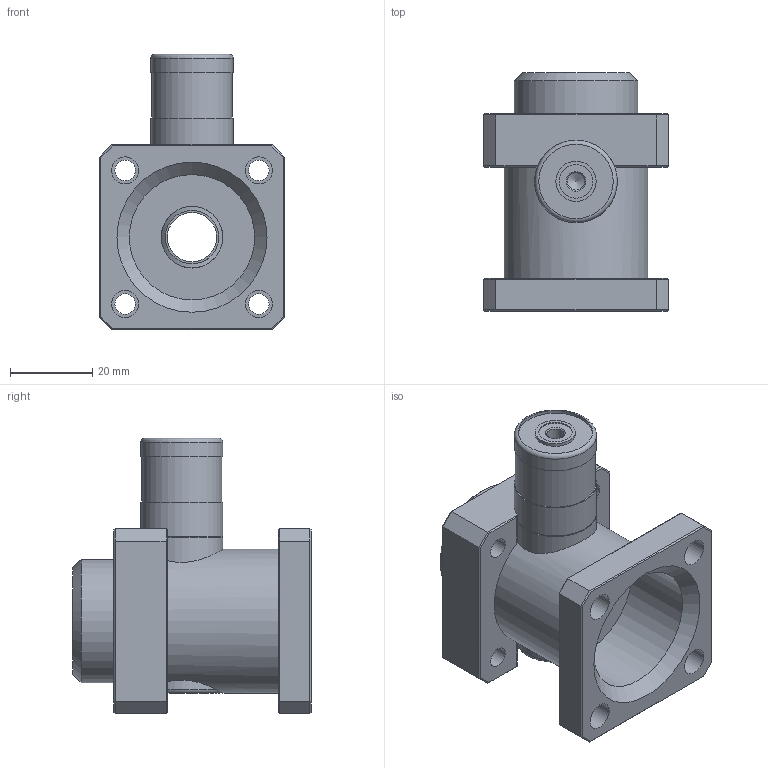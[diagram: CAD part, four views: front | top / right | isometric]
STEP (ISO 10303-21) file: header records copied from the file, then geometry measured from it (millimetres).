
FILE_DESCRIPTION(('STEP AP242'),'1');
FILE_NAME('A.6012 + MA.7032 Feststellpatrone mit Zylinderaufnahme.stp','2026-07-01T13:22:04',(' '),(' '),'Spatial InterOp 3D',' ',' ');
FILE_SCHEMA(('AP242_MANAGED_MODEL_BASED_3D_ENGINEERING_MIM_LF {1 0 10303 442 1 1 4}'));
Length unit declared in the file: millimetre
Products named in the file (3): A.6012 + MA.7032 Feststellpatrone mit Zylinderaufnahme; MA.7032 (M7032-SO); A.6012 Feststellpatrone
Assembly tree (2 placements, depth 2):
  A.6012 + MA.7032 Feststellpatrone mit Zylinderaufnahme
    MA.7032 (M7032-SO)
    A.6012 Feststellpatrone
Bounding box: 45 x 58 x 67 mm (x, y, z)
Volume: 60088.8 mm3; surface area: 23023.2 mm2
Topology: 2 solids, 2 shells, 106 faces, 242 edges, 148 vertices
Faces by surface type: plane 70, cylinder 27, cone 7, torus 2
Full cylindrical faces by diameter (mm): 4.2 x2, 5 x4, 6.6 x4, 8.2 x1, 9.8 x1, 12 x2, 13 x2, 15 x2, 18.1 x1, 19.5 x1, 20 x3, 20.117 x1, 30 x1, 30.5 x1, 35 x1
Entity records: 4250 total; most frequent: CARTESIAN_POINT 880, DIRECTION 470, ORIENTED_EDGE 396, EDGE_CURVE 198, EDGE_LOOP 174, AXIS2_PLACEMENT_3D 169, VERTEX_POINT 141, FACE_OUTER_BOUND 135
